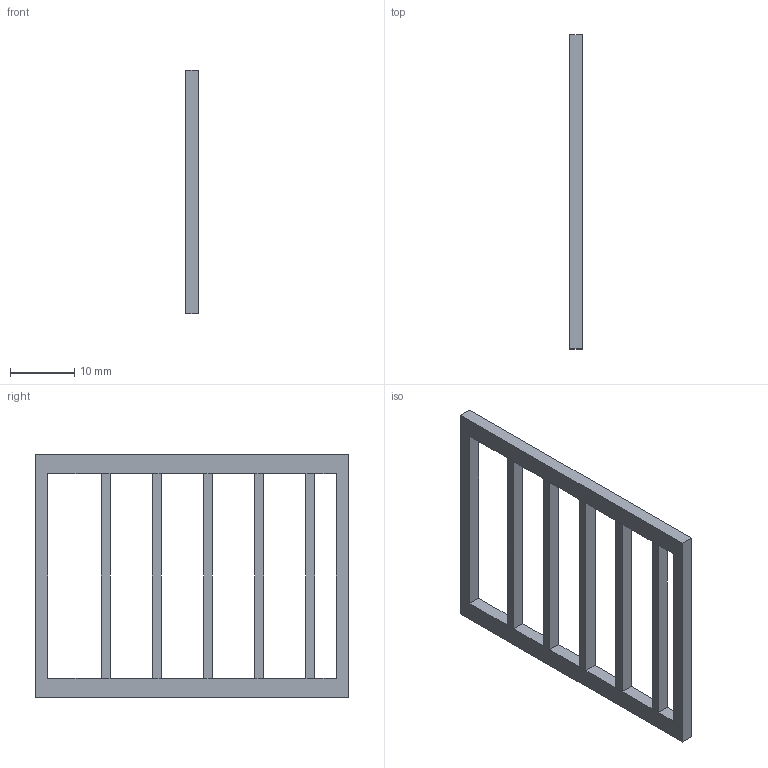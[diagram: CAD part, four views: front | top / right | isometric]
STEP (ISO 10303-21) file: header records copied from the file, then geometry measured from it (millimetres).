
FILE_DESCRIPTION(('Open CASCADE Model'),'2;1');
FILE_NAME('Open CASCADE Shape Model','2026-11-03T04:29:36',('Author'),( 'Open CASCADE'),'Open CASCADE STEP processor 7.8','Open CASCADE 7.8' ,'Unknown');
FILE_SCHEMA(('AUTOMOTIVE_DESIGN { 1 0 10303 214 1 1 1 1 }'));
Length unit declared in the file: millimetre
Products named in the file (1): Open CASCADE STEP translator 7.8 43
Bounding box: 2 x 49 x 38 mm (x, y, z)
Volume: 1292 mm3; surface area: 2560 mm2
Topology: 1 solids, 1 shells, 40 faces, 104 edges, 56 vertices
Faces by surface type: plane 40
Entity records: 2534 total; most frequent: CARTESIAN_POINT 409, DIRECTION 394, LINE 312, VECTOR 312, ORIENTED_EDGE 208, PCURVE 208, DEFINITIONAL_REPRESENTATION 208, EDGE_CURVE 104
